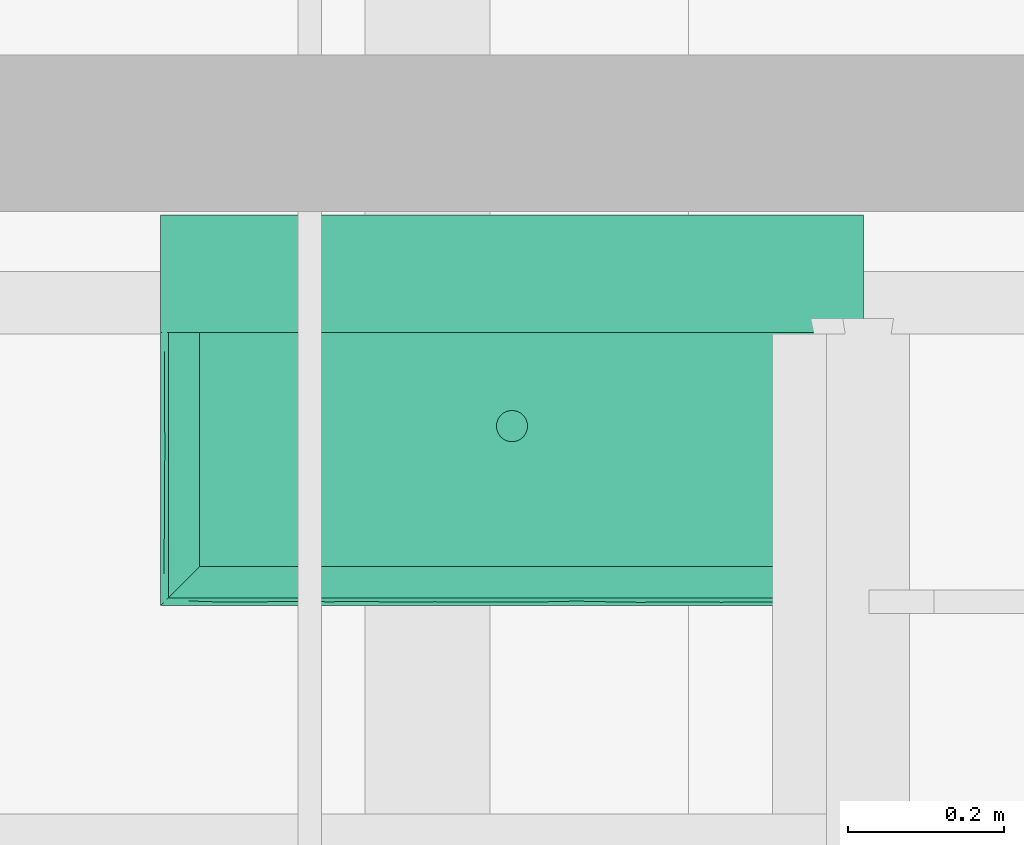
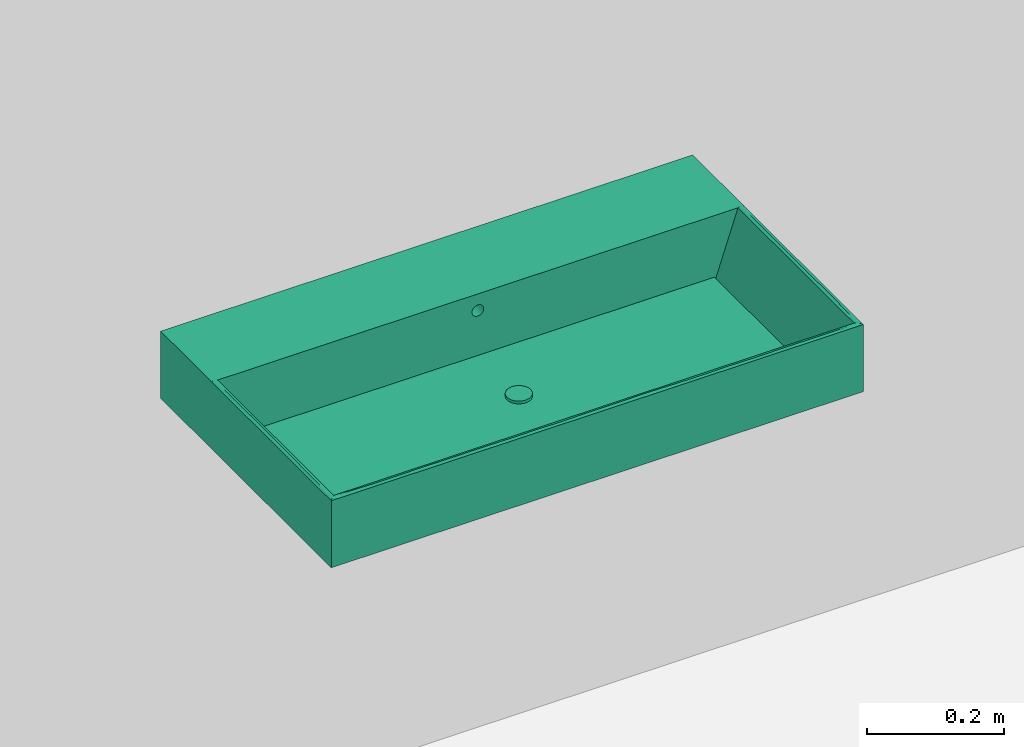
# One storey, part 17 of 18: 1 flow terminal.
"""IFC2X3 building model written with IfcOpenShell, lengths in metres."""

import ifcopenshell
import ifcopenshell.guid

model = None  # the IFC model being written
_history = None  # IfcOwnerHistory: only IFC2X3 demands one
_inside = {}  # id of a spatial element -> (the spatial element, [elements in it])
_under = {}  # id of a project, library or spatial element -> (it, [spatial elements below it])
_declared = {}  # id of a project -> (the project, [libraries it declares])
_typed = {}  # id of a type object -> (the type object, [elements of that type])
_made_of = {}  # id of a material, layer set ... -> (it, [elements and type objects made of it])


def new_model(schema):
    """Start an empty IFC model of exactly this schema.

    Asked for "IFC4X3", IfcOpenShell would pick the latest addendum, in which some entities
    have other attributes; the version numbers below select the first issue.
    IFC2X3 requires an IfcOwnerHistory on every rooted entity: one is made here for all.
    """
    global model, _history
    if schema == "IFC4X3":
        model = ifcopenshell.file(schema_version=(4, 3, 0, 0))
    else:
        model = ifcopenshell.file(schema=schema)
    _inside.clear()
    _under.clear()
    _declared.clear()
    _typed.clear()
    _made_of.clear()
    _history = None
    if model.schema == "IFC2X3":
        org = make("IfcOrganization", Name="unknown")
        user = make(
            "IfcPersonAndOrganization",
            ThePerson=make("IfcPerson", FamilyName="unknown"),
            TheOrganization=org,
        )
        app = make(
            "IfcApplication",
            ApplicationDeveloper=org,
            Version="unknown",
            ApplicationFullName="unknown",
            ApplicationIdentifier="unknown",
        )
        _history = make(
            "IfcOwnerHistory",
            OwningUser=user,
            OwningApplication=app,
            ChangeAction="ADDED",
            CreationDate=0,
        )
    return model


def make(cls, **values):
    """One entity of the class cls with the attributes given. An attribute that is None is left unset."""
    return model.create_entity(
        cls, **{name: value for name, value in values.items() if value is not None}
    )


def entity(cls, *values):
    """Any entity or typed value of the class cls, its attributes in the order of the schema. None: left unset."""
    e = model.create_entity(cls)
    for i, value in enumerate(values):
        if value is not None:
            e[i] = value
    return e


def rooted(cls, **values):
    """An entity with a GlobalId (a new one), such as an element, a storey or a relation."""
    return make(cls, GlobalId=ifcopenshell.guid.new(), OwnerHistory=_history, **values)


def si_unit(unit_type, name, prefix=None):
    """IfcSIUnit, for example si_unit("LENGTHUNIT", "METRE", prefix="MILLI")."""
    return make("IfcSIUnit", UnitType=unit_type, Prefix=prefix, Name=name)


def converted_unit(unit_type, name, factor, base, dimensions=None, offset=None):
    """IfcConversionBasedUnit, such as the inch: factor (a typed value) times the base unit."""
    return make(
        "IfcConversionBasedUnit"
        if offset is None
        else "IfcConversionBasedUnitWithOffset",
        ConversionOffset=offset,
        Dimensions=None
        if dimensions is None
        else entity("IfcDimensionalExponents", *dimensions),
        UnitType=unit_type,
        Name=name,
        ConversionFactor=make(
            "IfcMeasureWithUnit", ValueComponent=factor, UnitComponent=base
        ),
    )


def derived_unit(unit_type, elements):
    """IfcDerivedUnit: a product of units, each with its exponent."""
    return make(
        "IfcDerivedUnit",
        Elements=[
            make("IfcDerivedUnitElement", Unit=unit, Exponent=power)
            for unit, power in elements
        ],
        UnitType=unit_type,
    )


def assignment(units):
    """IfcUnitAssignment: the units of a project."""
    return None if units is None else make("IfcUnitAssignment", Units=units)


def point(xyz):
    """IfcCartesianPoint."""
    return None if xyz is None else make("IfcCartesianPoint", Coordinates=xyz)


def direction(xyz):
    """IfcDirection."""
    return None if xyz is None else make("IfcDirection", DirectionRatios=xyz)


def frame(location, z_axis=None, x_axis=None):
    """IfcAxis2Placement3D, a coordinate frame: its origin and axes. An axis left out is left unset."""
    return make(
        "IfcAxis2Placement3D",
        Location=point(location),
        Axis=direction(z_axis),
        RefDirection=direction(x_axis),
    )


def frame_2d(location, x_axis=None):
    """IfcAxis2Placement2D, a coordinate frame in the plane: its origin and x axis."""
    return make(
        "IfcAxis2Placement2D", Location=point(location), RefDirection=direction(x_axis)
    )


def origin():
    """The frame at (0, 0, 0) with its axes left unset."""
    return frame((0.0, 0.0, 0.0))


def place(relative_to, where):
    """IfcLocalPlacement: puts the frame where relative to a parent placement (None: the world)."""
    return make(
        "IfcLocalPlacement", PlacementRelTo=relative_to, RelativePlacement=where
    )


def context(
    kind, dimensions, precision=None, world=None, true_north=None, identifier=None
):
    """IfcGeometricRepresentationContext, for example the 3D "Model" context."""
    return make(
        "IfcGeometricRepresentationContext",
        ContextIdentifier=identifier,
        ContextType=kind,
        CoordinateSpaceDimension=dimensions,
        Precision=precision,
        WorldCoordinateSystem=world,
        TrueNorth=true_north,
    )


def subcontext(parent, identifier, kind, view, scale=None):
    """IfcGeometricRepresentationSubContext, for example "Body" below "Model"."""
    return make(
        "IfcGeometricRepresentationSubContext",
        ContextIdentifier=identifier,
        ContextType=kind,
        ParentContext=parent,
        TargetScale=scale,
        TargetView=view,
    )


def project(units=None, contexts=None):
    """IfcProject with its units and contexts."""
    return rooted(
        "IfcProject",
        Name="project",
        RepresentationContexts=contexts,
        UnitsInContext=assignment(units),
    )


def spatial(cls, under=None, at=None, **own):
    """A site, building, storey or space (cls), placed at a placement, below another one or the project."""
    s = rooted(cls, ObjectPlacement=at, **own)
    if under is not None:
        _under.setdefault(under.id(), (under, []))[1].append(s)
    return s


def profile(cls, at=None, kind="AREA", **sizes):
    """A parametric profile (cls). Its sizes go by their IFC names, for example OverallWidth=200.0."""
    return make(cls, ProfileType=kind, Position=at, **sizes)


def rectangle(**sizes):
    """IfcRectangleProfileDef."""
    return profile("IfcRectangleProfileDef", **sizes)


def circle(**sizes):
    """IfcCircleProfileDef."""
    return profile("IfcCircleProfileDef", **sizes)


def extrude(swept, where, along, depth):
    """IfcExtrudedAreaSolid: the profile swept, set in the frame where, extruded along a direction by depth."""
    return make(
        "IfcExtrudedAreaSolid",
        SweptArea=swept,
        Position=where,
        ExtrudedDirection=direction(along),
        Depth=depth,
    )


def faces_of(points, faces, orient=None, outer=None):
    """IfcFace entities. A face is a list of loops; a loop is a list of indices into points, from 0.

    orient and outer hold one flag for each loop. By default every Orientation is true, the
    first loop of a face is its IfcFaceOuterBound and the others are IfcFaceBound.
    """
    made = []
    for i, loops in enumerate(faces):
        bounds = []
        for j, loop in enumerate(loops):
            is_outer = j == 0 if outer is None else outer[i][j]
            bounds.append(
                make(
                    "IfcFaceOuterBound" if is_outer else "IfcFaceBound",
                    Bound=make("IfcPolyLoop", Polygon=[points[k] for k in loop]),
                    Orientation=True if orient is None else orient[i][j],
                )
            )
        made.append(make("IfcFace", Bounds=bounds))
    return made


def faceted_brep(points, faces, orient=None, outer=None, voids=None):
    """IfcFacetedBrep: a solid bounded by flat faces; with voids (closed shells), ...WithVoids."""
    shared = [point(p) for p in points]
    hull = make("IfcClosedShell", CfsFaces=faces_of(shared, faces, orient, outer))
    if voids is None:
        return make("IfcFacetedBrep", Outer=hull)
    return make(
        "IfcFacetedBrepWithVoids",
        Outer=hull,
        Voids=[
            make(cls, CfsFaces=faces_of(shared, fs, o, b)) for cls, fs, o, b in voids
        ],
    )


def shape(context_of_items, identifier, shape_type, items):
    """IfcShapeRepresentation: the items that make up one representation, for example the "Body"."""
    return make(
        "IfcShapeRepresentation",
        ContextOfItems=context_of_items,
        RepresentationIdentifier=identifier,
        RepresentationType=shape_type,
        Items=items,
    )


def source(mapping_origin, context_of_items, identifier, shape_type, items):
    """IfcRepresentationMap: a shape defined once, which mapped items show again and again."""
    return make(
        "IfcRepresentationMap",
        MappingOrigin=mapping_origin,
        MappedRepresentation=shape(context_of_items, identifier, shape_type, items),
    )


def transform(
    local_origin,
    x_axis=None,
    y_axis=None,
    z_axis=None,
    scale=None,
    scale2=None,
    scale3=None,
    uniform=True,
):
    """IfcCartesianTransformationOperator3D, or its non-uniform kind. x_axis, y_axis, z_axis: its Axis1, 2, 3."""
    if uniform:
        return make(
            "IfcCartesianTransformationOperator3D",
            Axis1=direction(x_axis),
            Axis2=direction(y_axis),
            LocalOrigin=point(local_origin),
            Scale=scale,
            Axis3=direction(z_axis),
        )
    return make(
        "IfcCartesianTransformationOperator3DnonUniform",
        Axis1=direction(x_axis),
        Axis2=direction(y_axis),
        LocalOrigin=point(local_origin),
        Scale=scale,
        Axis3=direction(z_axis),
        Scale2=scale2,
        Scale3=scale3,
    )


def mapped(mapping_source, mapping_target):
    """IfcMappedItem: shows the shape of a source again, moved by a transform."""
    return make(
        "IfcMappedItem", MappingSource=mapping_source, MappingTarget=mapping_target
    )


def material(Name=None, Category=None):
    """IfcMaterial."""
    return make("IfcMaterial", Name=Name, Category=Category)


def material_list(materials):
    """IfcMaterialList."""
    return make("IfcMaterialList", Materials=materials)


def made_of(thing, what):
    """Note that an element or type object is made of a material, layer set ...; save() writes the relation."""
    if what is not None:
        _made_of.setdefault(what.id(), (what, []))[1].append(thing)
    return thing


def type_object(cls, material=None, **own):
    """A type object (cls), such as IfcWallType, which elements share."""
    return made_of(rooted(cls, **own), material)


def type_shapes(of_type, sources):
    """Give a type object the sources (RepresentationMaps) that its elements show as mapped items."""
    of_type.RepresentationMaps = sources


def element(
    cls,
    number,
    at=None,
    inside=None,
    cuts=None,
    type_object=None,
    material=None,
    context=None,
    identifier="Body",
    shape_type=None,
    held_by="IfcProductDefinitionShape",
    body=None,
    shapes=None,
    **own,
):
    """One element of the class cls, such as IfcWall. Its Tag is "e" and its number.

    at: its placement. inside: the storey or other place that contains it. cuts: it is an
    opening in that element (IfcRelVoidsElement). A single representation is given by context,
    identifier, shape_type and body (its items); several are given by shapes. held_by: the class
    of the entity that holds the representations. save() writes the other relations.
    """
    e = rooted(cls, Tag="e%d" % number, ObjectPlacement=at, **own)
    if body is not None:
        shapes = [shape(context, identifier, shape_type, body)]
    if shapes is not None:
        e.Representation = make(held_by, Representations=shapes)
    if inside is not None:
        _inside.setdefault(inside.id(), (inside, []))[1].append(e)
    if cuts is not None:
        rooted(
            "IfcRelVoidsElement", RelatingBuildingElement=cuts, RelatedOpeningElement=e
        )
    if type_object is not None:
        _typed.setdefault(type_object.id(), (type_object, []))[1].append(e)
    return made_of(e, material)


def aggregate(whole, parts):
    """IfcRelAggregates: a whole, such as a stair, and the parts it consists of."""
    return rooted("IfcRelAggregates", RelatingObject=whole, RelatedObjects=parts)


def save(model, path):
    """Write the relations noted so far, then the file.

    IfcRelAggregates (storeys below a building ...), IfcRelContainedInSpatialStructure (elements
    in a storey), IfcRelDefinesByType, IfcRelAssociatesMaterial and IfcRelDeclares: one each for
    every whole, place, type object, material and project.
    """
    for whole, parts in _under.values():
        aggregate(whole, parts)
    for where, things in _inside.values():
        rooted(
            "IfcRelContainedInSpatialStructure",
            RelatedElements=things,
            RelatingStructure=where,
        )
    for kind, things in _typed.values():
        rooted("IfcRelDefinesByType", RelatedObjects=things, RelatingType=kind)
    for what, things in _made_of.values():
        rooted("IfcRelAssociatesMaterial", RelatedObjects=things, RelatingMaterial=what)
    for by, libraries in _declared.values():
        rooted("IfcRelDeclares", RelatingContext=by, RelatedDefinitions=libraries)
    model.write(path)


model = new_model("IFC2X3")

# Units and contexts
model_context = context("Model", 3, precision=1e-05, world=origin(), true_north=direction((6.123233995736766e-17, 1.0)))
body_context = subcontext(model_context, "Body", "Model", "MODEL_VIEW")
ifc_project = project(units=[si_unit("LENGTHUNIT", "METRE"), si_unit("AREAUNIT", "SQUARE_METRE"), si_unit("VOLUMEUNIT", "CUBIC_METRE"), si_unit("POWERUNIT", "WATT"), derived_unit("USERDEFINED", [(si_unit("MASSUNIT", "GRAM", prefix="KILO"), 1), (si_unit("TIMEUNIT", "SECOND"), -3)]), derived_unit("THERMALRESISTANCEUNIT", [(si_unit("MASSUNIT", "GRAM", prefix="KILO"), -1), (si_unit("TIMEUNIT", "SECOND"), 3), (si_unit("THERMODYNAMICTEMPERATUREUNIT", "KELVIN"), 1)]), derived_unit("USERDEFINED", [(si_unit("MASSUNIT", "GRAM", prefix="KILO"), 1), (si_unit("TIMEUNIT", "SECOND"), -2), (si_unit("THERMODYNAMICTEMPERATUREUNIT", "KELVIN"), -1)]), derived_unit("THERMALTRANSMITTANCEUNIT", [(si_unit("MASSUNIT", "GRAM", prefix="KILO"), 1), (si_unit("TIMEUNIT", "SECOND"), -3), (si_unit("THERMODYNAMICTEMPERATUREUNIT", "KELVIN"), -1)]), converted_unit("PLANEANGLEUNIT", "DEGREE", entity("IfcPlaneAngleMeasure", 0.017453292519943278), si_unit("PLANEANGLEUNIT", "RADIAN"), dimensions=[0, 0, 0, 0, 0, 0, 0]), derived_unit("MOMENTOFINERTIAUNIT", [(si_unit("LENGTHUNIT", "METRE"), 4)])], contexts=[model_context])

# Site, building, storey, space
site_placement = place(None, origin())
site = spatial("IfcSite", under=ifc_project, at=site_placement, Name="Default", CompositionType="ELEMENT")
building_placement = place(site_placement, origin())
building = spatial("IfcBuilding", under=site, at=building_placement, CompositionType="ELEMENT")
storey_placement = place(building_placement, frame((0.0, 0.0, 5.4)))
storey = spatial("IfcBuildingStorey", under=building, at=storey_placement, Name="1. Obergeschoss", CompositionType="ELEMENT", Elevation=5.4)
space_placement = place(storey_placement, origin())
space = spatial("IfcSpace", under=storey, at=space_placement, Name="22", CompositionType="ELEMENT", InteriorOrExteriorSpace="INTERNAL")

# Flow terminal
ifc_material_1 = material(Name="Metall - Edelstahl satiniert")
ifc_material_2 = material(Name="Keramik - weiß 255_255_255")
ifc_material_list = material_list([ifc_material_1, ifc_material_2])
distribution_element_type = type_object("IfcDistributionElementType", Name="Waschbecken 08:900 x 500", material=ifc_material_list)
shared_shape = source(origin(), body_context, "Body", "SolidModel", [
    extrude(circle(Radius=0.02, at=frame_2d((0.0, -2.9609648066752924e-17), x_axis=(1.0, 0.0))), frame((0.12289206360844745, 0.029999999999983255, 0.009999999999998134)), (0.0, 0.0, 1.0), 0.005000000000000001),
    extrude(rectangle(XDim=0.8000000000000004, YDim=0.3000000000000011, at=frame_2d((2.7755575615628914e-17, 0.0), x_axis=(1.0, 0.0))), frame((0.12289206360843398, 0.0, 0.0), z_axis=(0.0, 0.0, 1.0), x_axis=(-1.0, 0.0, 0.0)), (0.0, 0.0, 1.0), 0.01),
    faceted_brep([(-0.3271079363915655, -0.19999999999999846, 0.0), (-0.3271079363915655, -0.19999999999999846, 0.12000000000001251), (-0.3271079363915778, -0.1478653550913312, 0.12000000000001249), (-0.3271079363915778, -0.0957307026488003, 0.1200000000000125), (-0.3271079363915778, -0.04359605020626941, 0.1200000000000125), (-0.3271079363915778, 0.008538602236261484, 0.12000000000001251), (-0.3271079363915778, 0.05320197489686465, 0.1200000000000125), (-0.32710793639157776, 0.09786534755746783, 0.1200000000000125), (-0.327107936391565, 0.1500000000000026, 0.12000000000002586), (-0.3271079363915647, 0.3000000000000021, 0.12000000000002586), (-0.3271079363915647, 0.3000000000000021, 0.0), (0.5728920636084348, 0.30000000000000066, 0.0), (0.5728920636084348, 0.30000000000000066, 0.12000000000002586), (0.5728920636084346, 0.15000000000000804, 0.1200000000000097), (0.5728920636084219, 0.0978653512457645, 0.1200000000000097), (0.5728920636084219, 0.053201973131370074, 0.1200000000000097), (0.5728920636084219, 0.008538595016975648, 0.1200000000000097), (0.572892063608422, -0.04359605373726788, 0.12000000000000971), (0.5728920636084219, -0.0957307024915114, 0.12000000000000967), (0.5728920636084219, -0.14786535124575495, 0.1200000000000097), (0.572892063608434, -0.19999999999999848, 0.12000000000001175), (0.572892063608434, -0.19999999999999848, 0.0), (-0.3171079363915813, 0.15000000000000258, 0.12000000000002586), (0.5628920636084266, 0.15000000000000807, 0.12000000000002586), (0.5228920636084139, 0.15000000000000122, 0.0), (0.13255132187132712, 0.15000000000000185, 0.092966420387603), (0.13289206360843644, 0.15000000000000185, 0.09037822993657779), (0.13255132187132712, 0.15000000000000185, 0.0877900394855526), (0.13155231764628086, 0.15000000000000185, 0.08537822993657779), (0.12996313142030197, 0.15000000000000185, 0.08330716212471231), (0.1278920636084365, 0.15000000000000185, 0.08171797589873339), (0.12548025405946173, 0.15000000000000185, 0.08071897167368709), (0.12289206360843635, 0.15000000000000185, 0.08037822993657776), (-0.27710793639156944, 0.15000000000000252, 0.0), (0.1315523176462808, 0.15000000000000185, 0.09537822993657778), (0.1299631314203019, 0.15000000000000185, 0.09744929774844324), (0.12789206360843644, 0.15000000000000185, 0.09903848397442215), (0.12548025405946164, 0.15000000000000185, 0.10003748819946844), (0.12289206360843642, 0.15000000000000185, 0.10037822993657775), (0.12030387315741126, 0.15000000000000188, 0.10003748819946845), (0.11789206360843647, 0.15000000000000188, 0.09903848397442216), (0.11582099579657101, 0.15000000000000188, 0.09744929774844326), (0.11423180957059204, 0.15000000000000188, 0.0953782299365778), (0.11323280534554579, 0.15000000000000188, 0.09296642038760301), (0.11289206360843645, 0.15000000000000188, 0.09037822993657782), (0.12030387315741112, 0.15000000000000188, 0.08071897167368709), (0.11789206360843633, 0.15000000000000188, 0.0817179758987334), (0.11582099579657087, 0.15000000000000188, 0.08330716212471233), (0.11423180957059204, 0.15000000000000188, 0.0853782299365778), (0.11323280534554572, 0.15000000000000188, 0.08779003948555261), (0.5228920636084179, -0.14999999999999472, 0.0), (-0.27710793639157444, -0.1499999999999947, 0.0), (-0.32104885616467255, 0.14999999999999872, 0.1214705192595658), (-0.3189904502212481, 0.14999999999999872, 0.1209709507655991), (-0.32522542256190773, 0.14999999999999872, 0.12097095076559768), (-0.32316701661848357, 0.14999999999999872, 0.12147051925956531), (0.5647745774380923, 0.15000000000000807, 0.12097095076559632), (0.5668329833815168, 0.15000000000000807, 0.12147051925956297), (0.5689511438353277, 0.15000000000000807, 0.12147051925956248), (0.571009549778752, 0.15000000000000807, 0.12097095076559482), (-0.3171079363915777, 0.09786534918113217, 0.12000000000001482), (-0.3171079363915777, 0.06499999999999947, 0.12000000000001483), (-0.3171079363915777, 0.022499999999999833, 0.12000000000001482), (-0.3171079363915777, -0.019999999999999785, 0.12000000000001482), (-0.3171079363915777, -0.0624999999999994, 0.12000000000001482), (-0.3171079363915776, -0.10499999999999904, 0.1200000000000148), (-0.3171079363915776, -0.13786534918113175, 0.12000000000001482), (-0.3171079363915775, -0.18999999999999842, 0.12000000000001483), (0.5207574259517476, -0.19999999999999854, 0.12000000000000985), (0.4686227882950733, -0.19999999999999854, 0.12000000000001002), (0.416488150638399, -0.19999999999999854, 0.12000000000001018), (0.364353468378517, -0.19999999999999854, 0.12000000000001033), (0.31221878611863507, -0.19999999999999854, 0.1200000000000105), (0.2600841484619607, -0.19999999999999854, 0.12000000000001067), (0.20794951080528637, -0.19999999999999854, 0.12000000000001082), (0.15581487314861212, -0.19999999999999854, 0.120000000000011), (0.12151683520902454, -0.19999999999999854, 0.12000000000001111), (0.08721879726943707, -0.19999999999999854, 0.12000000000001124), (0.05292080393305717, -0.19999999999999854, 0.12000000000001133), (0.018622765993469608, -0.19999999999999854, 0.12000000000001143), (-0.015675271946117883, -0.19999999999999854, 0.12000000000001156), (-0.04997326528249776, -0.19999999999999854, 0.12000000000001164), (-0.08427130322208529, -0.19999999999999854, 0.12000000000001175), (-0.11856934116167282, -0.19999999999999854, 0.12000000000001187), (-0.17070397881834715, -0.19999999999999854, 0.12000000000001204), (-0.2228386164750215, -0.19999999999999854, 0.12000000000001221), (-0.27497325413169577, -0.19999999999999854, 0.12000000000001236), (-0.2649732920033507, -0.18999999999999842, 0.12000000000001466), (-0.20710793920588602, -0.18999999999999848, 0.12000000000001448), (-0.15210793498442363, -0.18999999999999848, 0.1200000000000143), (-0.09710793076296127, -0.18999999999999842, 0.12000000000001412), (-0.04210792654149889, -0.18999999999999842, 0.12000000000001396), (0.012892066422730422, -0.18999999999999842, 0.12000000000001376), (0.06789205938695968, -0.18999999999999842, 0.1200000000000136), (0.12289206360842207, -0.18999999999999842, 0.12000000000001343), (0.17789206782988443, -0.18999999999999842, 0.12000000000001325), (0.2328920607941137, -0.18999999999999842, 0.12000000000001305), (0.2878920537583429, -0.18999999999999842, 0.12000000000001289), (0.3428920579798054, -0.18999999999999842, 0.12000000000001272), (0.39789206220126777, -0.18999999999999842, 0.12000000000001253), (0.45289206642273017, -0.18999999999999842, 0.12000000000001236), (0.5107574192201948, -0.18999999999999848, 0.12000000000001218), (0.5628920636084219, -0.18999999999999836, 0.12000000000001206), (0.5628920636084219, -0.13786534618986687, 0.12000000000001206), (0.5628920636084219, -0.10499999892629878, 0.12000000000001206), (0.5628920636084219, -0.06249999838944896, 0.12000000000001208), (0.5628920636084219, -0.019999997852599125, 0.12000000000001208), (0.5628920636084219, 0.022500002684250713, 0.12000000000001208), (0.5628920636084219, 0.06500000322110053, 0.12000000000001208), (0.5628920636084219, 0.09786535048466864, 0.12000000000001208), (-0.32243946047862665, -0.15836408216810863, 0.12152746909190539), (-0.3252254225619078, -0.19811748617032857, 0.12097095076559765), (-0.3231670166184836, -0.1960590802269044, 0.12147051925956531), (-0.3224711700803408, -0.12143267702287, 0.12152623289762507), (-0.3217902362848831, -0.03903605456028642, 0.1215279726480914), (-0.32173737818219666, 0.0012499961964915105, 0.12152593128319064), (-0.31899045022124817, -0.19188251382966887, 0.12097095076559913), (-0.32177659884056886, 0.04137552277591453, 0.12152747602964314), (-0.32210793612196, 0.11613239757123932, 0.12153363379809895), (-0.322107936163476, 0.08143267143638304, 0.12153363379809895), (0.567892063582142, 0.11613240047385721, 0.12153363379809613), (-0.32203543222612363, -0.08027424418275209, 0.1215333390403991), (-0.3210488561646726, -0.1939409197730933, 0.12147051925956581), (0.5314729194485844, -0.19536247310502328, 0.1215262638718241), (0.5710095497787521, -0.19811748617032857, 0.12097095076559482), (0.5689511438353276, -0.19605908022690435, 0.12147051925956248), (-0.24890595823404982, -0.19539184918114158, 0.12152502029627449), (-0.21003994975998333, -0.19514438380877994, 0.12153246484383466), (0.35123087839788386, -0.19509550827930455, 0.12153312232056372), (0.10436783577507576, -0.1949543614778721, 0.12153351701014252), (0.1666197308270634, -0.19499039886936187, 0.1215336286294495), (0.5668329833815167, -0.1939409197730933, 0.12147051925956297), (0.45582408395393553, -0.19514438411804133, 0.12153246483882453), (0.4946900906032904, -0.19539184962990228, 0.12152502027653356), (0.3904207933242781, -0.1955798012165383, 0.12151476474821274), (0.24625119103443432, -0.19501198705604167, 0.12153362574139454), (0.2861514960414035, -0.19562879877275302, 0.12151143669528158), (-0.014607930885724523, -0.19532369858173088, 0.12152775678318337), (-0.28436950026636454, -0.1940709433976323, 0.12148510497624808), (0.5647745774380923, -0.19188251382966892, 0.12097095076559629), (-0.17022608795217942, -0.19469488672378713, 0.12152841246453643), (0.02406225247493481, -0.19491145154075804, 0.12153319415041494), (-0.10882378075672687, -0.19496066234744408, 0.12153354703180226), (-0.0696079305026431, -0.19465519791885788, 0.12152696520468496), (0.06266848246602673, -0.19553500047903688, 0.1215175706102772), (0.20539206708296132, -0.19404913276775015, 0.12148279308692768), (0.5675215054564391, 0.00125000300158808, 0.12152593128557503), (0.567574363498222, -0.03903604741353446, 0.12152797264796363), (0.5675607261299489, 0.041375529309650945, 0.12152747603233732), (0.5669946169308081, -0.15713973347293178, 0.1214883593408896), (0.5678920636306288, 0.08143267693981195, 0.12153363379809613), (0.5682552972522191, -0.12143267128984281, 0.12152623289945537), (0.5678195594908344, -0.08027423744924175, 0.12153333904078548), (0.13255132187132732, 0.2577905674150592, 0.0877900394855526), (0.1328920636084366, 0.2577905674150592, 0.0903782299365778), (0.13255132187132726, 0.2577905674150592, 0.092966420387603), (0.13155231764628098, 0.2577905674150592, 0.09537822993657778), (0.12996313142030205, 0.2577905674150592, 0.09744929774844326), (0.12789206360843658, 0.2577905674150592, 0.09903848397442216), (0.12548025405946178, 0.2577905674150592, 0.10003748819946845), (0.12289206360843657, 0.2577905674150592, 0.10037822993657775), (0.12030387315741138, 0.2577905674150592, 0.10003748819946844), (0.11789206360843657, 0.2577905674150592, 0.09903848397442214), (0.11582099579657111, 0.2577905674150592, 0.0974492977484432), (0.1142318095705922, 0.2577905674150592, 0.09537822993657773), (0.11323280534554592, 0.2577905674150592, 0.09296642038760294), (0.11289206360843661, 0.2577905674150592, 0.09037822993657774), (0.11323280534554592, 0.2577905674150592, 0.08779003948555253), (0.11423180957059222, 0.2577905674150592, 0.08537822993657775), (0.11582099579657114, 0.2577905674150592, 0.08330716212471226), (0.11789206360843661, 0.2577905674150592, 0.08171797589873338), (0.1203038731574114, 0.2577905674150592, 0.08071897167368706), (0.12289206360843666, 0.2577905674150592, 0.08037822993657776), (0.12548025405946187, 0.2577905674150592, 0.08071897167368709), (0.12789206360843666, 0.2577905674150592, 0.08171797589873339), (0.12996313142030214, 0.2577905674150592, 0.08330716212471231), (0.13155231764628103, 0.2577905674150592, 0.0853782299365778)], [[[0, 1, 2, 3, 4, 5, 6, 7, 8, 9, 10]], [[11, 12, 13, 14, 15, 16, 17, 18, 19, 20, 21]], [[13, 12, 9, 8, 22, 23]], [[24, 23, 25]], [[24, 25, 26]], [[27, 24, 26]], [[24, 27, 28]], [[24, 28, 29]], [[29, 30, 24]], [[30, 31, 24]], [[31, 32, 24]], [[24, 32, 33]], [[25, 23, 34]], [[35, 34, 23]], [[36, 35, 23]], [[37, 36, 23]], [[23, 38, 37]], [[38, 23, 22]], [[39, 38, 22]], [[40, 39, 22]], [[22, 41, 40]], [[41, 22, 42]], [[43, 42, 22]], [[22, 33, 43]], [[44, 43, 33]], [[45, 33, 32]], [[45, 46, 33]], [[46, 47, 33]], [[48, 33, 47]], [[33, 48, 49]], [[49, 44, 33]], [[21, 50, 24]], [[50, 21, 51]], [[24, 11, 21]], [[0, 51, 21]], [[51, 0, 33]], [[10, 33, 0]], [[11, 24, 10]], [[33, 10, 24]], [[12, 11, 10, 9]], [[52, 53, 22, 8, 54, 55]], [[23, 56, 57, 58, 59, 13]], [[33, 22, 60, 61, 62, 63, 64, 65, 66, 67, 51]], [[0, 21, 20, 68, 69, 70, 71, 72, 73, 74, 75, 76, 77, 78, 79, 80, 81, 82, 83, 84, 85, 86, 1]], [[51, 67, 87, 88, 89, 90, 91, 92, 93, 94, 95, 96, 97, 98, 99, 100, 101, 102, 50]], [[50, 102, 103, 104, 105, 106, 107, 108, 109, 23, 24]], [[110, 111, 112]], [[110, 113, 2]], [[4, 114, 115]], [[116, 67, 66]], [[60, 22, 53]], [[54, 8, 7]], [[2, 1, 111]], [[117, 6, 5]], [[65, 113, 66]], [[110, 66, 113]], [[53, 118, 60]], [[115, 114, 63]], [[66, 110, 116]], [[119, 61, 60]], [[5, 115, 117]], [[119, 118, 7]], [[55, 118, 52]], [[120, 58, 57]], [[3, 2, 113]], [[118, 53, 52]], [[64, 121, 65]], [[112, 122, 110]], [[7, 118, 54]], [[115, 63, 62]], [[118, 55, 54]], [[60, 118, 119]], [[119, 7, 6]], [[119, 117, 61]], [[64, 114, 121]], [[115, 62, 117]], [[3, 113, 121]], [[4, 115, 5]], [[61, 117, 62]], [[6, 117, 119]], [[121, 4, 3]], [[64, 63, 114]], [[121, 114, 4]], [[65, 121, 113]], [[110, 2, 111]], [[110, 122, 116]], [[123, 124, 125]], [[88, 126, 127]], [[72, 71, 128]], [[111, 1, 86]], [[68, 20, 124]], [[129, 76, 130]], [[123, 125, 131]], [[126, 86, 85]], [[132, 69, 133]], [[128, 134, 99]], [[135, 73, 136]], [[92, 91, 137]], [[133, 69, 68]], [[116, 122, 138]], [[135, 74, 73]], [[139, 101, 123]], [[111, 138, 112]], [[67, 116, 138]], [[127, 84, 140]], [[141, 137, 79]], [[111, 86, 138]], [[128, 71, 134]], [[100, 132, 133]], [[142, 82, 143]], [[123, 133, 68]], [[139, 102, 101]], [[133, 123, 101]], [[87, 126, 88]], [[126, 138, 86]], [[90, 143, 91]], [[143, 137, 91]], [[137, 81, 80, 79]], [[77, 129, 144]], [[92, 137, 141]], [[100, 133, 101]], [[132, 100, 99]], [[134, 132, 99]], [[70, 134, 71]], [[123, 68, 124]], [[70, 69, 132]], [[123, 131, 139]], [[126, 85, 127]], [[138, 126, 87]], [[83, 142, 140]], [[140, 88, 127]], [[127, 85, 84]], [[138, 87, 67]], [[138, 122, 112]], [[143, 90, 142]], [[137, 143, 81]], [[90, 89, 142]], [[142, 89, 140]], [[132, 134, 70]], [[128, 99, 98]], [[136, 73, 72]], [[136, 98, 97]], [[128, 98, 136]], [[97, 135, 136]], [[128, 136, 72]], [[135, 97, 96]], [[74, 145, 130]], [[145, 96, 95]], [[145, 135, 96]], [[74, 130, 76, 75]], [[145, 95, 130]], [[74, 135, 145]], [[95, 94, 130]], [[94, 129, 130]], [[76, 129, 77]], [[94, 93, 129]], [[144, 129, 93]], [[141, 93, 92]], [[141, 78, 144]], [[78, 141, 79]], [[78, 77, 144]], [[93, 141, 144]], [[140, 84, 83]], [[88, 140, 89]], [[82, 142, 83]], [[82, 81, 143]], [[146, 106, 147]], [[146, 148, 107]], [[124, 19, 149]], [[109, 108, 150]], [[150, 120, 109]], [[151, 104, 103]], [[106, 146, 107]], [[124, 20, 19]], [[14, 13, 59]], [[19, 18, 151]], [[120, 59, 58]], [[17, 147, 152]], [[56, 23, 109]], [[109, 120, 56]], [[102, 139, 149]], [[139, 131, 149]], [[149, 125, 124]], [[152, 18, 17]], [[19, 151, 149]], [[149, 151, 103]], [[146, 147, 17]], [[108, 107, 148]], [[14, 59, 120]], [[120, 57, 56]], [[14, 120, 150]], [[15, 150, 148]], [[15, 14, 150]], [[151, 152, 104]], [[146, 17, 16]], [[148, 16, 15]], [[106, 105, 147]], [[147, 105, 152]], [[148, 146, 16]], [[108, 148, 150]], [[104, 152, 105]], [[18, 152, 151]], [[149, 103, 102]], [[149, 131, 125]], [[153, 154, 155, 156, 157, 158, 159, 160, 161, 162, 163, 164, 165, 166, 167, 168, 169, 170, 171, 172, 173, 174, 175, 176]], [[38, 160, 159, 37]], [[37, 159, 158, 36]], [[34, 35, 157, 156]], [[157, 35, 36, 158]], [[25, 34, 156, 155]], [[155, 154, 26, 25]], [[26, 154, 153, 27]], [[27, 153, 176, 28]], [[30, 29, 175, 174]], [[175, 29, 28, 176]], [[31, 30, 174, 173]], [[31, 173, 172, 32]], [[32, 172, 171, 45]], [[45, 171, 170, 46]], [[48, 47, 169, 168]], [[169, 47, 46, 170]], [[49, 48, 168, 167]], [[49, 167, 166, 44]], [[165, 43, 44, 166]], [[42, 43, 165, 164]], [[39, 40, 162, 161]], [[38, 39, 161, 160]], [[41, 42, 164, 163]], [[41, 163, 162, 40]]]),
])
type_shapes(distribution_element_type, [shared_shape])
flow_terminal_placement = place(space_placement, frame((35.00236850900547, 24.57727237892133, 0.7800000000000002)))
element("IfcFlowTerminal", 1, at=flow_terminal_placement, inside=space, type_object=distribution_element_type, material=ifc_material_list, Name="Waschbecken 08:900 x 500", ObjectType="Waschbecken 08:900 x 500", context=body_context, shape_type="MappedRepresentation", body=[
    mapped(shared_shape, transform((0.0, 0.0, 0.0), scale=1.0)),
])

save(model, "model.ifc")
